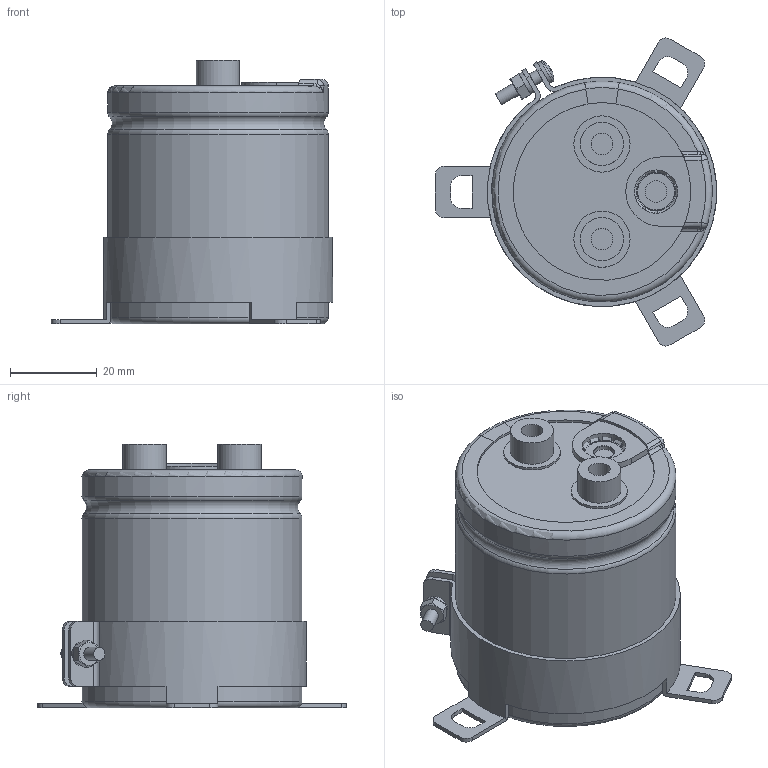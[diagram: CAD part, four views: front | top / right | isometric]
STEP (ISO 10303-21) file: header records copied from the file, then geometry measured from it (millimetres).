
FILE_DESCRIPTION(/* description */ (''),/* implementation_level */ '2;1');
FILE_NAME(/* name */ '51x55_Screw.stp',/* time_stamp */ '2017-09-03T11:48:46+09:00',/* author */ (''),/* organization */ (''),/* preprocessor_version */ 'ST-DEVELOPER v16',/* originating_system */ 'SIEMENS PLM Software NX 11.0',/* authorisation */ '');
FILE_SCHEMA (('AUTOMOTIVE_DESIGN { 1 0 10303 214 3 1 1 1 }'));
Length unit declared in the file: millimetre
Products named in the file (1): 51x55_Screw
Bounding box: 65 x 71.22 x 61 mm (x, y, z)
Volume: 114340.7 mm3; surface area: 40935.5 mm2
Topology: 9 solids, 9 shells, 298 faces, 744 edges, 471 vertices
Faces by surface type: plane 118, cylinder 78, torus 54, cone 31, bspline 12, sphere 5
Full cylindrical faces by diameter (mm): 3 x5, 5 x6, 5.5 x2, 10 x4, 13 x2, 49.8 x2
Entity records: 10562 total; most frequent: CARTESIAN_POINT 3129, DIRECTION 1450, ORIENTED_EDGE 1410, EDGE_CURVE 705, AXIS2_PLACEMENT_3D 606, VERTEX_POINT 464, EDGE_LOOP 353, CIRCLE 319
